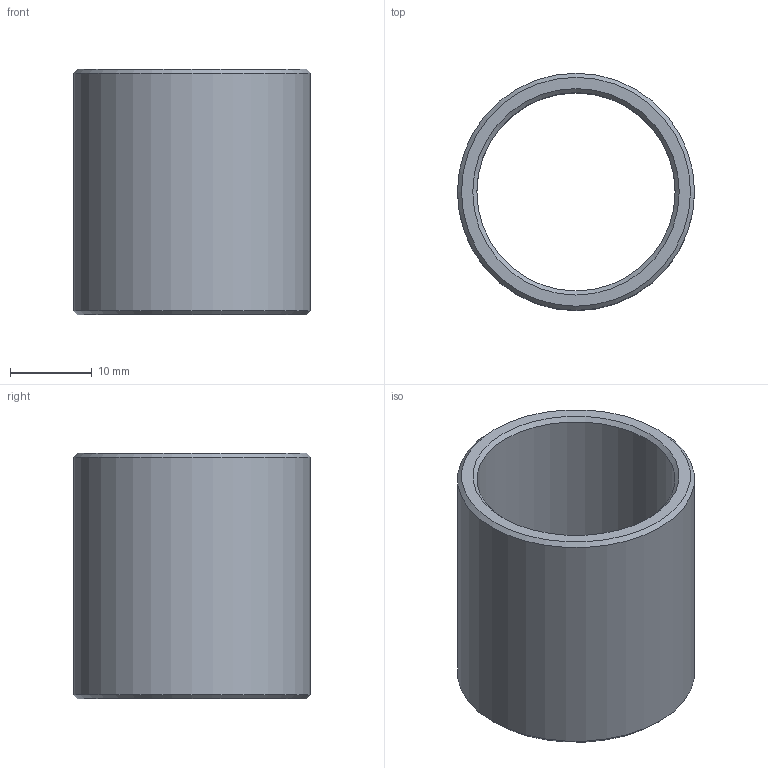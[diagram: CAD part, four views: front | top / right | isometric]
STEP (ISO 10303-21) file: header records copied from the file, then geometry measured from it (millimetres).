
FILE_DESCRIPTION(/* description */ (''),/* implementation_level */ '2;1');
FILE_NAME(/* name */ 'Y:\IvDoronin\- Фотоприемники -\- Модели -\4. Аксесуары для фотоприемников\TNut M25x1\Тубус 30 мм.stp',/* time_stamp */ '2019-08-27T17:11:51+03:00',/* author */ ('svlad'),/* organization */ (''),/* preprocessor_version */ 'ST-DEVELOPER v17',/* originating_system */ 'Autodesk Inventor 2019',/* authorisation */ '');
FILE_SCHEMA (('AUTOMOTIVE_DESIGN { 1 0 10303 214 3 1 1 }'));
Length unit declared in the file: millimetre
Products named in the file (1): Тубус 10 мм
Bounding box: 29 x 29 x 30 mm (x, y, z)
Volume: 5917.9 mm3; surface area: 5318 mm2
Topology: 1 solids, 1 shells, 8 faces, 14 edges, 8 vertices
Faces by surface type: cone 4, cylinder 2, plane 2
Full cylindrical faces by diameter (mm): 24.25 x1, 29 x1
Entity records: 231 total; most frequent: DIRECTION 40, CARTESIAN_POINT 31, ORIENTED_EDGE 28, AXIS2_PLACEMENT_3D 17, EDGE_CURVE 14, EDGE_LOOP 10, FACE_OUTER_BOUND 8, CIRCLE 8
